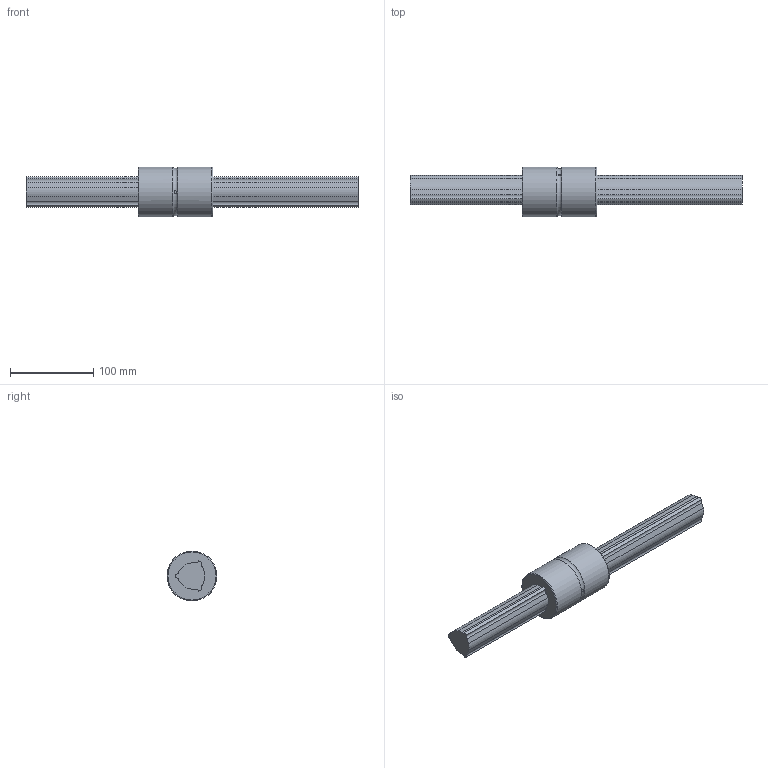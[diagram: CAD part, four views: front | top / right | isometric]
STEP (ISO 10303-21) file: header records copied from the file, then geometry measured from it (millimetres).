
FILE_DESCRIPTION(/* description */ ('STEP AP214'),/* implementation_level */ '2;1');
FILE_NAME(/* name */ 'LBS40+400L(901350)',/* time_stamp */ '2024-09-04T12:49:15+02:00',/* author */ ('License CC BY-ND 4.0'),/* organization */ ('CADENAS'),/* preprocessor_version */ 'ST-DEVELOPER v19.3',/* originating_system */ 'PARTsolutions',/* authorisation */ ' ');
FILE_SCHEMA (('AUTOMOTIVE_DESIGN {1 0 10303 214 3 1 1}'));
Length unit declared in the file: millimetre
Products named in the file (3): LBS40+400L(901350); LBS40 Nut; LBS401400 Spline Shaft
Assembly tree (2 placements, depth 2):
  LBS40+400L(901350)
    LBS40 Nut
    LBS401400 Spline Shaft
Bounding box: 400 x 60 x 60 mm (x, y, z)
Volume: 516307.5 mm3; surface area: 80071.8 mm2
Topology: 3 solids, 3 shells, 57 faces, 148 edges, 99 vertices
Faces by surface type: cylinder 31, plane 22, torus 4
Full cylindrical faces by diameter (mm): 3 x3, 60 x2
Entity records: 1796 total; most frequent: CARTESIAN_POINT 341, DIRECTION 306, ORIENTED_EDGE 272, EDGE_CURVE 136, AXIS2_PLACEMENT_3D 118, VERTEX_POINT 94, LINE 70, VECTOR 70
